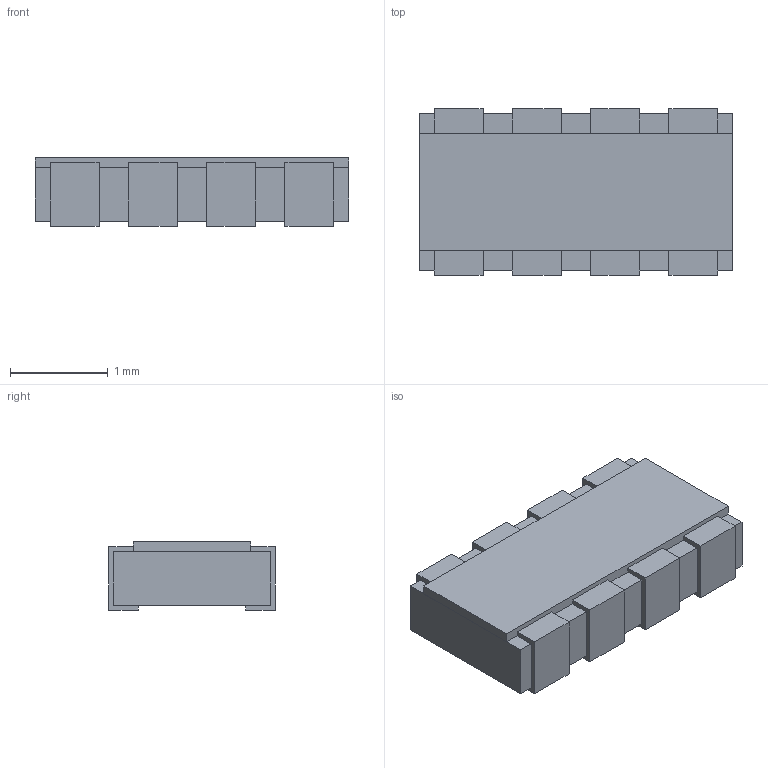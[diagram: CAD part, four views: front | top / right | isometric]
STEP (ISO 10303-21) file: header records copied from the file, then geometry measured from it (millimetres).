
FILE_DESCRIPTION (( 'STEP AP214' ), '1' );
FILE_NAME ( 'RESCAV8P80_320X160X70L30X50.STEP', '2021-10-06T06:48:57', ( '' ), ( '' ), '', '©2017 PCB Libraries, Inc.', '' );
FILE_SCHEMA (( 'AUTOMOTIVE_DESIGN' ));
Length unit declared in the file: millimetre
Products named in the file (1): RESCAV8P80_320X160X70L30X50
Bounding box: 3.2 x 1.7 x 0.7 mm (x, y, z)
Volume: 3.4 mm3; surface area: 34.2 mm2
Topology: 10 solids, 10 shells, 92 faces, 216 edges, 144 vertices
Faces by surface type: plane 92
Entity records: 2953 total; most frequent: CARTESIAN_POINT 453, ORIENTED_EDGE 432, DIRECTION 402, VECTOR 216, LINE 216, EDGE_CURVE 216, VERTEX_POINT 144, STYLED_ITEM 103
